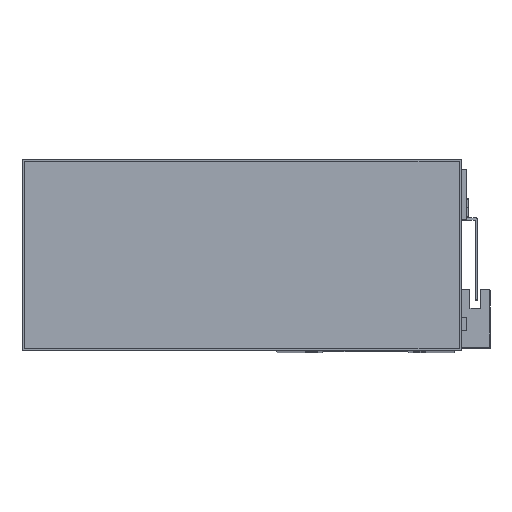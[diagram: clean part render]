
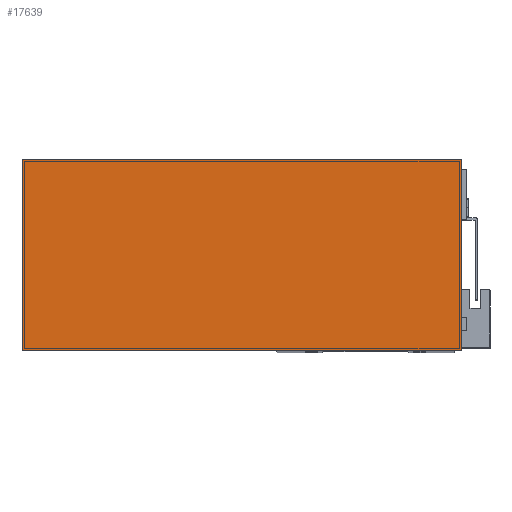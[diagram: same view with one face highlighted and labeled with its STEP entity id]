
A CAD part, top view. The second image highlights one B-rep face of the part: STEP entity #17639.
In plain terms, the highlighted planar face has unit normal (0, 0, 1).
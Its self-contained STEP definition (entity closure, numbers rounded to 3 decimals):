
#1583 = LINE ( 'NONE', #20454, #1605 ) ;
#1605 = VECTOR ( 'NONE', #12304, 1000. ) ;
#2508 = ORIENTED_EDGE ( 'NONE', *, *, #3881, .T. ) ;
#3881 = EDGE_CURVE ( 'NONE', #10173, #12771, #18784, .T. ) ;
#5812 = CARTESIAN_POINT ( 'NONE',  ( 87., 201., 46. ) ) ;
#6645 = DIRECTION ( 'NONE',  ( 0., 0., 1. ) ) ;
#6981 = VERTEX_POINT ( 'NONE', #12623 ) ;
#7831 = CARTESIAN_POINT ( 'NONE',  ( 87., -1., 46. ) ) ;
#7856 = ORIENTED_EDGE ( 'NONE', *, *, #9463, .T. ) ;
#9463 = EDGE_CURVE ( 'NONE', #10730, #6981, #12598, .T. ) ;
#10113 = DIRECTION ( 'NONE',  ( -1., 0., 0. ) ) ;
#10173 = VERTEX_POINT ( 'NONE', #7831 ) ;
#10183 = CARTESIAN_POINT ( 'NONE',  ( -1., 201., 46. ) ) ;
#10730 = VERTEX_POINT ( 'NONE', #13947 ) ;
#12304 = DIRECTION ( 'NONE',  ( 1., 0., 0. ) ) ;
#12598 = LINE ( 'NONE', #12633, #12637 ) ;
#12623 = CARTESIAN_POINT ( 'NONE',  ( -1., -1., 46. ) ) ;
#12633 = CARTESIAN_POINT ( 'NONE',  ( -1., 201., 46. ) ) ;
#12637 = VECTOR ( 'NONE', #14287, 1000. ) ;
#12771 = VERTEX_POINT ( 'NONE', #16152 ) ;
#13947 = CARTESIAN_POINT ( 'NONE',  ( -1., 201., 46. ) ) ;
#14287 = DIRECTION ( 'NONE',  ( 0., -1., 0. ) ) ;
#14717 = ORIENTED_EDGE ( 'NONE', *, *, #21170, .T. ) ;
#15208 = ORIENTED_EDGE ( 'NONE', *, *, #17698, .T. ) ;
#15836 = DIRECTION ( 'NONE',  ( 0., 1., 0. ) ) ;
#16152 = CARTESIAN_POINT ( 'NONE',  ( 87., 201., 46. ) ) ;
#16576 = CARTESIAN_POINT ( 'NONE',  ( 0., 0., 46. ) ) ;
#16611 = AXIS2_PLACEMENT_3D ( 'NONE', #16576, #6645, #18281 ) ;
#16648 = PLANE ( 'NONE',  #16611 ) ;
#17639 = ADVANCED_FACE ( 'NONE', ( #20799 ), #16648, .T. ) ;
#17698 = EDGE_CURVE ( 'NONE', #12771, #10730, #21636, .T. ) ;
#18281 = DIRECTION ( 'NONE',  ( 1., 0., 0. ) ) ;
#18746 = VECTOR ( 'NONE', #15836, 1000. ) ;
#18784 = LINE ( 'NONE', #5812, #18746 ) ;
#20454 = CARTESIAN_POINT ( 'NONE',  ( -1., -1., 46. ) ) ;
#20799 = FACE_OUTER_BOUND ( 'NONE', #21686, .T. ) ;
#21170 = EDGE_CURVE ( 'NONE', #6981, #10173, #1583, .T. ) ;
#21599 = VECTOR ( 'NONE', #10113, 1000. ) ;
#21636 = LINE ( 'NONE', #10183, #21599 ) ;
#21686 = EDGE_LOOP ( 'NONE', ( #7856, #14717, #2508, #15208 ) ) ;
